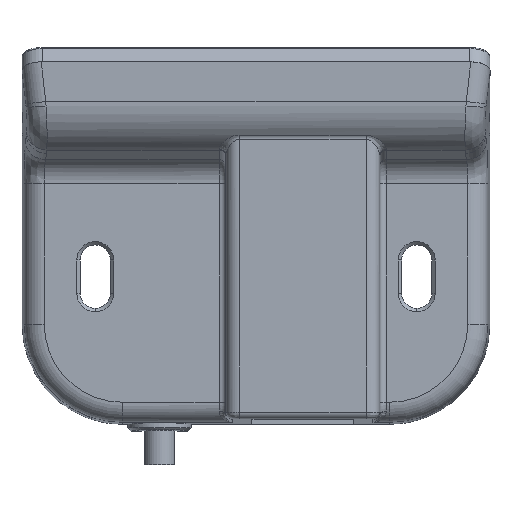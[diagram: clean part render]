
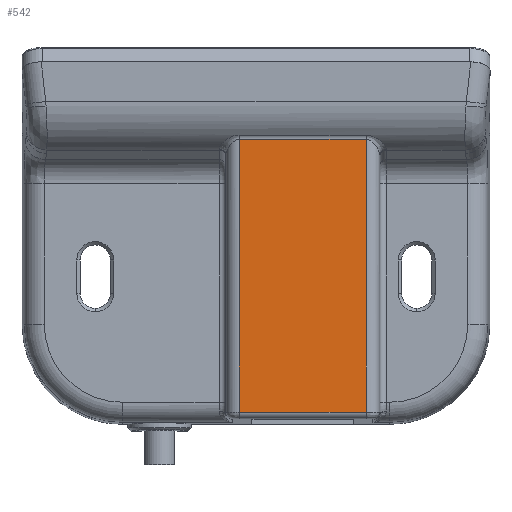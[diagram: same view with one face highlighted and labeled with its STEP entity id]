
A CAD part, front view. The second image highlights one B-rep face of the part: STEP entity #542.
In plain terms, the highlighted planar face has unit normal (0, -1, 0).
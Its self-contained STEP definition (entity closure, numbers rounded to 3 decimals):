
#9 = EDGE_CURVE ( 'NONE', #12596, #14198, #7937, .T. ) ;
#199 = CARTESIAN_POINT ( 'NONE',  ( 16.5, 2., -32.66 ) ) ;
#542 = ADVANCED_FACE ( 'NONE', ( #17982 ), #11316, .T. ) ;
#1295 = DIRECTION ( 'NONE',  ( 1., 0., 0. ) ) ;
#1310 = CARTESIAN_POINT ( 'NONE',  ( 16.5, 2., -32.66 ) ) ;
#1638 = CARTESIAN_POINT ( 'NONE',  ( 16.5, 2., -62.675 ) ) ;
#1693 = EDGE_CURVE ( 'NONE', #13855, #12596, #16843, .T. ) ;
#1734 = ORIENTED_EDGE ( 'NONE', *, *, #9393, .T. ) ;
#2409 = CARTESIAN_POINT ( 'NONE',  ( -2.5, 2., 8.147 ) ) ;
#2538 = AXIS2_PLACEMENT_3D ( 'NONE', #17257, #8507, #1295 ) ;
#2864 = CARTESIAN_POINT ( 'NONE',  ( -2.5, 2., -32.66 ) ) ;
#4966 = VECTOR ( 'NONE', #6951, 1000. ) ;
#6951 = DIRECTION ( 'NONE',  ( 1., 0., 0. ) ) ;
#7834 = EDGE_CURVE ( 'NONE', #14198, #11376, #12837, .T. ) ;
#7937 = LINE ( 'NONE', #12488, #13555 ) ;
#8170 = DIRECTION ( 'NONE',  ( 0., 0., -1. ) ) ;
#8373 = ORIENTED_EDGE ( 'NONE', *, *, #7834, .T. ) ;
#8507 = DIRECTION ( 'NONE',  ( 0., -1., 0. ) ) ;
#8923 = DIRECTION ( 'NONE',  ( 0., 0., 1. ) ) ;
#9217 = LINE ( 'NONE', #1638, #15005 ) ;
#9393 = EDGE_CURVE ( 'NONE', #11376, #13855, #9217, .T. ) ;
#11246 = VECTOR ( 'NONE', #11298, 1000. ) ;
#11298 = DIRECTION ( 'NONE',  ( -1., 0., 0. ) ) ;
#11316 = PLANE ( 'NONE',  #2538 ) ;
#11376 = VERTEX_POINT ( 'NONE', #1310 ) ;
#12488 = CARTESIAN_POINT ( 'NONE',  ( -2.5, 2., -62.675 ) ) ;
#12596 = VERTEX_POINT ( 'NONE', #2409 ) ;
#12837 = LINE ( 'NONE', #199, #4966 ) ;
#13446 = CARTESIAN_POINT ( 'NONE',  ( 16.5, 2., 8.147 ) ) ;
#13555 = VECTOR ( 'NONE', #8170, 1000. ) ;
#13855 = VERTEX_POINT ( 'NONE', #13446 ) ;
#14198 = VERTEX_POINT ( 'NONE', #2864 ) ;
#14250 = CARTESIAN_POINT ( 'NONE',  ( -2.5, 2., 8.147 ) ) ;
#15005 = VECTOR ( 'NONE', #8923, 1000. ) ;
#16843 = LINE ( 'NONE', #14250, #11246 ) ;
#17215 = ORIENTED_EDGE ( 'NONE', *, *, #1693, .T. ) ;
#17257 = CARTESIAN_POINT ( 'NONE',  ( 18.5, 2., -62.675 ) ) ;
#17590 = ORIENTED_EDGE ( 'NONE', *, *, #9, .T. ) ;
#17982 = FACE_OUTER_BOUND ( 'NONE', #18570, .T. ) ;
#18570 = EDGE_LOOP ( 'NONE', ( #1734, #17215, #17590, #8373 ) ) ;
